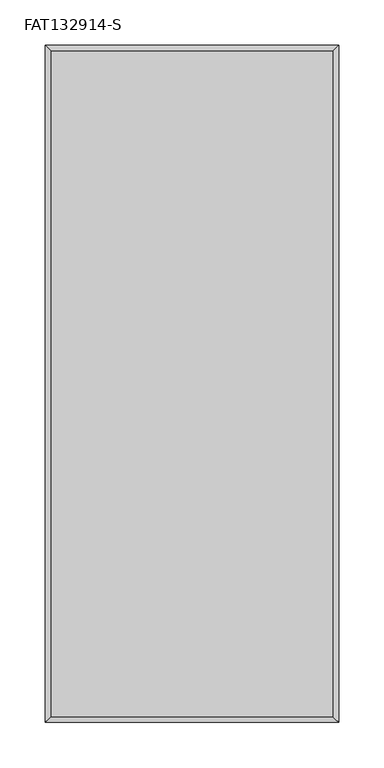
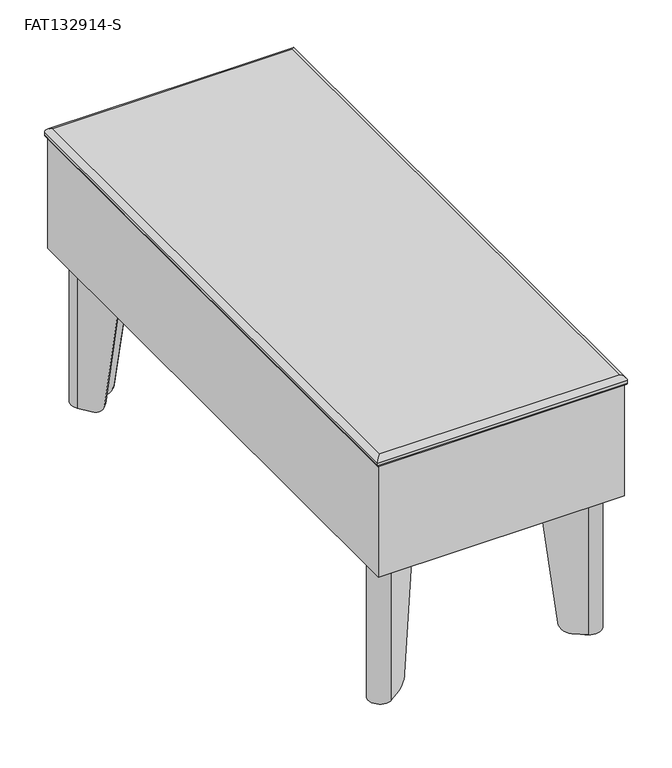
"""IFC4 building model written with IfcOpenShell, lengths in millimetres: furniture geometry, Stance_HC-Flora-Table_Straight : FAT132914-S."""

import ifcopenshell
import ifcopenshell.guid

model = None  # the IFC model being written
_history = None  # IfcOwnerHistory: only IFC2X3 demands one
_inside = {}  # id of a spatial element -> (the spatial element, [elements in it])
_under = {}  # id of a project, library or spatial element -> (it, [spatial elements below it])
_declared = {}  # id of a project -> (the project, [libraries it declares])
_typed = {}  # id of a type object -> (the type object, [elements of that type])
_made_of = {}  # id of a material, layer set ... -> (it, [elements and type objects made of it])


def new_model(schema):
    """Start an empty IFC model of exactly this schema.

    Asked for "IFC4X3", IfcOpenShell would pick the latest addendum, in which some entities
    have other attributes; the version numbers below select the first issue.
    IFC2X3 requires an IfcOwnerHistory on every rooted entity: one is made here for all.
    """
    global model, _history
    if schema == "IFC4X3":
        model = ifcopenshell.file(schema_version=(4, 3, 0, 0))
    else:
        model = ifcopenshell.file(schema=schema)
    _inside.clear()
    _under.clear()
    _declared.clear()
    _typed.clear()
    _made_of.clear()
    _history = None
    if model.schema == "IFC2X3":
        org = make("IfcOrganization", Name="unknown")
        user = make(
            "IfcPersonAndOrganization",
            ThePerson=make("IfcPerson", FamilyName="unknown"),
            TheOrganization=org,
        )
        app = make(
            "IfcApplication",
            ApplicationDeveloper=org,
            Version="unknown",
            ApplicationFullName="unknown",
            ApplicationIdentifier="unknown",
        )
        _history = make(
            "IfcOwnerHistory",
            OwningUser=user,
            OwningApplication=app,
            ChangeAction="ADDED",
            CreationDate=0,
        )
    return model


def make(cls, **values):
    """One entity of the class cls with the attributes given. An attribute that is None is left unset."""
    return model.create_entity(
        cls, **{name: value for name, value in values.items() if value is not None}
    )


def rooted(cls, **values):
    """An entity with a GlobalId (a new one), such as an element, a storey or a relation."""
    return make(cls, GlobalId=ifcopenshell.guid.new(), OwnerHistory=_history, **values)


def si_unit(unit_type, name, prefix=None):
    """IfcSIUnit, for example si_unit("LENGTHUNIT", "METRE", prefix="MILLI")."""
    return make("IfcSIUnit", UnitType=unit_type, Prefix=prefix, Name=name)


def assignment(units):
    """IfcUnitAssignment: the units of a project."""
    return None if units is None else make("IfcUnitAssignment", Units=units)


def point(xyz):
    """IfcCartesianPoint."""
    return None if xyz is None else make("IfcCartesianPoint", Coordinates=xyz)


def direction(xyz):
    """IfcDirection."""
    return None if xyz is None else make("IfcDirection", DirectionRatios=xyz)


def frame(location, z_axis=None, x_axis=None):
    """IfcAxis2Placement3D, a coordinate frame: its origin and axes. An axis left out is left unset."""
    return make(
        "IfcAxis2Placement3D",
        Location=point(location),
        Axis=direction(z_axis),
        RefDirection=direction(x_axis),
    )


def frame_2d(location, x_axis=None):
    """IfcAxis2Placement2D, a coordinate frame in the plane: its origin and x axis."""
    return make(
        "IfcAxis2Placement2D", Location=point(location), RefDirection=direction(x_axis)
    )


def origin():
    """The frame at (0, 0, 0) with its axes left unset."""
    return frame((0.0, 0.0, 0.0))


def origin_with_axes():
    """The frame at (0, 0, 0) with the z axis (0, 0, 1) and the x axis (1, 0, 0) written out."""
    return frame((0.0, 0.0, 0.0), z_axis=(0.0, 0.0, 1.0), x_axis=(1.0, 0.0, 0.0))


def place(relative_to, where):
    """IfcLocalPlacement: puts the frame where relative to a parent placement (None: the world)."""
    return make(
        "IfcLocalPlacement", PlacementRelTo=relative_to, RelativePlacement=where
    )


def context(
    kind, dimensions, precision=None, world=None, true_north=None, identifier=None
):
    """IfcGeometricRepresentationContext, for example the 3D "Model" context."""
    return make(
        "IfcGeometricRepresentationContext",
        ContextIdentifier=identifier,
        ContextType=kind,
        CoordinateSpaceDimension=dimensions,
        Precision=precision,
        WorldCoordinateSystem=world,
        TrueNorth=true_north,
    )


def project(units=None, contexts=None):
    """IfcProject with its units and contexts."""
    return rooted(
        "IfcProject",
        Name="project",
        RepresentationContexts=contexts,
        UnitsInContext=assignment(units),
    )


def spatial(cls, under=None, at=None, **own):
    """A site, building, storey or space (cls), placed at a placement, below another one or the project."""
    s = rooted(cls, ObjectPlacement=at, **own)
    if under is not None:
        _under.setdefault(under.id(), (under, []))[1].append(s)
    return s


def polyline(points):
    """IfcPolyline through the points."""
    return make("IfcPolyline", Points=[point(p) for p in points])


def circle_curve(where, radius):
    """IfcCircle in the frame where."""
    return make("IfcCircle", Position=where, Radius=radius)


def ellipse_curve(where, semi_axis1, semi_axis2):
    """IfcEllipse in the frame where."""
    return make(
        "IfcEllipse", Position=where, SemiAxis1=semi_axis1, SemiAxis2=semi_axis2
    )


def trimmed(basis, trim1, trim2, sense, master):
    """IfcTrimmedCurve: the piece of a basis curve between two trims."""
    return make(
        "IfcTrimmedCurve",
        BasisCurve=basis,
        Trim1=trim1,
        Trim2=trim2,
        SenseAgreement=sense,
        MasterRepresentation=master,
    )


def segment(curve, same_sense, transition):
    """IfcCompositeCurveSegment."""
    return make(
        "IfcCompositeCurveSegment",
        Transition=transition,
        SameSense=same_sense,
        ParentCurve=curve,
    )


def composite_curve(segments, self_intersect=None):
    """IfcCompositeCurve: segments joined end to end."""
    return make("IfcCompositeCurve", Segments=segments, SelfIntersect=self_intersect)


def outline(outer, holes=None, kind="AREA"):
    """IfcArbitraryClosedProfileDef: a profile drawn as a closed curve; with holes, ...WithVoids."""
    if holes is None:
        return make("IfcArbitraryClosedProfileDef", ProfileType=kind, OuterCurve=outer)
    return make(
        "IfcArbitraryProfileDefWithVoids",
        ProfileType=kind,
        OuterCurve=outer,
        InnerCurves=holes,
    )


def extrude(swept, where, along, depth):
    """IfcExtrudedAreaSolid: the profile swept, set in the frame where, extruded along a direction by depth."""
    return make(
        "IfcExtrudedAreaSolid",
        SweptArea=swept,
        Position=where,
        ExtrudedDirection=direction(along),
        Depth=depth,
    )


def shape(context_of_items, identifier, shape_type, items):
    """IfcShapeRepresentation: the items that make up one representation, for example the "Body"."""
    return make(
        "IfcShapeRepresentation",
        ContextOfItems=context_of_items,
        RepresentationIdentifier=identifier,
        RepresentationType=shape_type,
        Items=items,
    )


def source(mapping_origin, context_of_items, identifier, shape_type, items):
    """IfcRepresentationMap: a shape defined once, which mapped items show again and again."""
    return make(
        "IfcRepresentationMap",
        MappingOrigin=mapping_origin,
        MappedRepresentation=shape(context_of_items, identifier, shape_type, items),
    )


def transform(
    local_origin,
    x_axis=None,
    y_axis=None,
    z_axis=None,
    scale=None,
    scale2=None,
    scale3=None,
    uniform=True,
):
    """IfcCartesianTransformationOperator3D, or its non-uniform kind. x_axis, y_axis, z_axis: its Axis1, 2, 3."""
    if uniform:
        return make(
            "IfcCartesianTransformationOperator3D",
            Axis1=direction(x_axis),
            Axis2=direction(y_axis),
            LocalOrigin=point(local_origin),
            Scale=scale,
            Axis3=direction(z_axis),
        )
    return make(
        "IfcCartesianTransformationOperator3DnonUniform",
        Axis1=direction(x_axis),
        Axis2=direction(y_axis),
        LocalOrigin=point(local_origin),
        Scale=scale,
        Axis3=direction(z_axis),
        Scale2=scale2,
        Scale3=scale3,
    )


def mapped(mapping_source, mapping_target):
    """IfcMappedItem: shows the shape of a source again, moved by a transform."""
    return make(
        "IfcMappedItem", MappingSource=mapping_source, MappingTarget=mapping_target
    )


def made_of(thing, what):
    """Note that an element or type object is made of a material, layer set ...; save() writes the relation."""
    if what is not None:
        _made_of.setdefault(what.id(), (what, []))[1].append(thing)
    return thing


def element(
    cls,
    number,
    at=None,
    inside=None,
    cuts=None,
    type_object=None,
    material=None,
    context=None,
    identifier="Body",
    shape_type=None,
    held_by="IfcProductDefinitionShape",
    body=None,
    shapes=None,
    **own,
):
    """One element of the class cls, such as IfcWall. Its Tag is "e" and its number.

    at: its placement. inside: the storey or other place that contains it. cuts: it is an
    opening in that element (IfcRelVoidsElement). A single representation is given by context,
    identifier, shape_type and body (its items); several are given by shapes. held_by: the class
    of the entity that holds the representations. save() writes the other relations.
    """
    e = rooted(cls, Tag="e%d" % number, ObjectPlacement=at, **own)
    if body is not None:
        shapes = [shape(context, identifier, shape_type, body)]
    if shapes is not None:
        e.Representation = make(held_by, Representations=shapes)
    if inside is not None:
        _inside.setdefault(inside.id(), (inside, []))[1].append(e)
    if cuts is not None:
        rooted(
            "IfcRelVoidsElement", RelatingBuildingElement=cuts, RelatedOpeningElement=e
        )
    if type_object is not None:
        _typed.setdefault(type_object.id(), (type_object, []))[1].append(e)
    return made_of(e, material)


def aggregate(whole, parts):
    """IfcRelAggregates: a whole, such as a stair, and the parts it consists of."""
    return rooted("IfcRelAggregates", RelatingObject=whole, RelatedObjects=parts)


def save(model, path):
    """Write the relations noted so far, then the file.

    IfcRelAggregates (storeys below a building ...), IfcRelContainedInSpatialStructure (elements
    in a storey), IfcRelDefinesByType, IfcRelAssociatesMaterial and IfcRelDeclares: one each for
    every whole, place, type object, material and project.
    """
    for whole, parts in _under.values():
        aggregate(whole, parts)
    for where, things in _inside.values():
        rooted(
            "IfcRelContainedInSpatialStructure",
            RelatedElements=things,
            RelatingStructure=where,
        )
    for kind, things in _typed.values():
        rooted("IfcRelDefinesByType", RelatedObjects=things, RelatingType=kind)
    for what, things in _made_of.values():
        rooted("IfcRelAssociatesMaterial", RelatedObjects=things, RelatingMaterial=what)
    for by, libraries in _declared.values():
        rooted("IfcRelDeclares", RelatingContext=by, RelatedDefinitions=libraries)
    model.write(path)


def plane_surface(at):
    """IfcPlane: the flat surface through the origin of the frame at, square to its z axis."""
    return make("IfcPlane", Position=at)


def cylinder_surface(at, radius):
    """IfcCylindricalSurface: all points at the distance radius from the z axis of the frame at."""
    return make("IfcCylindricalSurface", Position=at, Radius=radius)


def revolved_surface(curve, axis_point, axis_direction):
    """IfcSurfaceOfRevolution: the curve turned about the line through axis_point along axis_direction."""
    return make(
        "IfcSurfaceOfRevolution",
        SweptCurve=make("IfcArbitraryOpenProfileDef", ProfileType="CURVE", Curve=curve),
        AxisPosition=make("IfcAxis1Placement", Location=point(axis_point), Axis=direction(axis_direction)),
    )


def advanced_brep(points, edges, surfaces, faces):
    """IfcAdvancedBrep: a solid bounded by faces that lie on surfaces and meet in shared edges.

    An edge is (start, end): straight between two places in points (the first is 0);
    or (start, end, curve); or (start, end, curve, False) where it runs against its curve.
    A face is (place in surfaces, loops), or (place, loops, False) where it looks against
    its surface's normal. A loop lists edges by number (the first is 1), with a minus sign
    where the edge is run from its end to its start. The first loop is the outer one.
    """
    corners = [point(p) for p in points]
    vertices = [make("IfcVertexPoint", VertexGeometry=c) for c in corners]
    made = []
    for start, end, *more in edges:
        made.append(
            make(
                "IfcEdgeCurve",
                EdgeStart=vertices[start],
                EdgeEnd=vertices[end],
                EdgeGeometry=more[0] if more else make("IfcPolyline", Points=[corners[start], corners[end]]),
                SameSense=more[1] if len(more) > 1 else True,
            )
        )
    hull = []
    for where, loops, *sense in faces:
        bounds = []
        for j, loop in enumerate(loops):
            ring = [make("IfcOrientedEdge", EdgeElement=made[abs(k) - 1], Orientation=k > 0) for k in loop]
            bounds.append(
                make(
                    "IfcFaceOuterBound" if j == 0 else "IfcFaceBound",
                    Bound=make("IfcEdgeLoop", EdgeList=ring),
                    Orientation=True,
                )
            )
        hull.append(make("IfcAdvancedFace", Bounds=bounds, FaceSurface=surfaces[where], SameSense=sense[0] if sense else True))
    return make("IfcAdvancedBrep", Outer=make("IfcClosedShell", CfsFaces=hull))


def fat132914_s_f89065ec(model_context):
    return source(origin(), model_context, "Body", "SolidModel", [
        advanced_brep(
        [(274.3401042, -102.8613619, 193.6877233), (306.2642107, -57.26919, 193.6877233), (285.6391871, -36.6441664, 193.6877233), (240.0470178, -68.568271, 193.6877233), (241.8906556, -71.2012484, 193.6877233), (287.4828248, -39.2771437, 193.6877233), (303.6312333, -55.4255523, 193.6877233), (271.7071268, -101.0177242, 193.6877233), (274.3401042, -102.8613619, 189.1419595), (303.6312333, -55.4255523, 3.1876992), (293.5105238, -69.8793673, 3.1876992), (284.3334277, -82.9855678, 17.1280233), (287.4828248, -39.2771437, 3.1876992), (259.9228092, -58.5749494, 17.1280233), (273.0290098, -49.3978533, 3.1876992), (240.0470178, -68.568271, 189.1419334), (285.6391871, -36.6441664, 3.1876992), (270.7211121, -47.0899556, 3.1876992), (257.6149115, -56.2670517, 17.1280233), (306.2642107, -57.26919, 3.1876992), (286.6413254, -85.2934656, 17.1280233), (295.8184215, -72.187265, 3.1876992)],
        [
            (0, 1),
            (1, 2, circle_curve(frame((294.1333442, -48.7750329, 193.6877233), z_axis=(0.0, 0.0, 1.0), x_axis=(-1.0, 0.0, 0.0)), 14.8090724)),
            (2, 3),
            (3, 4),
            (4, 5),
            (5, 6, circle_curve(frame((294.1333442, -48.7750329, 193.6877233), z_axis=(0.0, 0.0, -1.0), x_axis=(-1.0, 0.0, 0.0)), 11.5947965)),
            (6, 7),
            (7, 0),
            (7, 8),
            (8, 0),
            (6, 9),
            (9, 10),
            (10, 11, ellipse_curve(frame((293.5105238, -69.8793673, 19.0626992), z_axis=(-0.8191509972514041, 0.5735779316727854, 0.0), x_axis=(-0.5735779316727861, -0.8191509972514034, 0.0)), 16.1198923, 15.875)),
            (11, 7),
            (5, 12),
            (12, 9, circle_curve(frame((294.1333442, -48.7750329, 3.1876992), z_axis=(0.0, 0.0, -1.0), x_axis=(-1.0, 0.0, 0.0)), 11.5947965)),
            (4, 13),
            (13, 14, ellipse_curve(frame((273.0290098, -49.3978533, 19.0626992), z_axis=(0.5735779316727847, -0.8191509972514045, 0.0), x_axis=(0.8191509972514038, 0.5735779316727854, 0.0)), 16.1198923, 15.875)),
            (14, 12),
            (3, 15),
            (15, 4),
            (2, 16),
            (16, 17),
            (17, 18, ellipse_curve(frame((270.7211121, -47.0899556, 19.0626992), z_axis=(-0.5735779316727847, 0.8191509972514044, 0.0), x_axis=(0.8191509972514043, 0.573577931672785, 0.0)), 16.1198923, 15.875)),
            (18, 15),
            (1, 19),
            (19, 16, circle_curve(frame((294.1333442, -48.7750329, 3.1876992), z_axis=(0.0, 0.0, 1.0), x_axis=(-1.0, 0.0, 0.0)), 14.8090724)),
            (8, 20),
            (20, 21, ellipse_curve(frame((295.8184215, -72.187265, 19.0626992), z_axis=(0.8191509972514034, -0.5735779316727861, 0.0), x_axis=(-0.5735779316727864, -0.8191509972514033, 0.0)), 16.1198923, 15.875)),
            (21, 19),
            (18, 13),
            (11, 20),
            (21, 10),
            (14, 17),
        ],
        [
            plane_surface(frame((271.7071268, -101.0177242, 193.6877233), z_axis=(0.0, 0.0, 1.0000000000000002), x_axis=(-0.8191509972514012, 0.5735779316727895, 0.0))),
            plane_surface(frame((274.3401042, -102.8613619, 193.6877233), z_axis=(-0.5735779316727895, -0.8191509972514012, 0.0), x_axis=(0.0, 0.0, -1.0))),
            plane_surface(frame((271.7071268, -101.0177242, 193.6877233), z_axis=(-0.8191509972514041, 0.5735779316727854, 0.0), x_axis=(0.0, 0.0, -1.0))),
            revolved_surface(polyline([(282.53854770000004, -48.7750329, 3.1876992), (282.53854770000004, -48.7750329, 193.6877233)]), (294.1333442, -48.7750329, 0.0), (0.0, 0.0, -1.0)),
            plane_surface(frame((287.4828248, -39.2771437, 193.6877233), z_axis=(0.5735779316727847, -0.8191509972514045, 0.0), x_axis=(0.0, 0.0, -1.0))),
            plane_surface(frame((241.8906556, -71.2012484, 193.6877233), z_axis=(-0.8191509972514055, -0.5735779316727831, 0.0), x_axis=(0.0, 0.0, -1.0))),
            plane_surface(frame((240.0470178, -68.568271, 193.6877233), z_axis=(-0.5735779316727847, 0.8191509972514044, 0.0), x_axis=(0.0, 0.0, -1.0))),
            cylinder_surface(frame((294.1333442, -48.7750329, 0.0), z_axis=(0.0, 0.0, 1.0), x_axis=(-1.0, 0.0, 0.0)), 14.8090724),
            plane_surface(frame((306.2642107, -57.26919, 193.6877233), z_axis=(0.8191509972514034, -0.5735779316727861, 0.0), x_axis=(0.0, 0.0, -1.0))),
            plane_surface(frame((251.7311084, -50.3832485, 17.1280233), z_axis=(-0.7018361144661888, -0.7018361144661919, -0.12186934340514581), x_axis=(0.7071067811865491, -0.707106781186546, 0.0))),
            plane_surface(frame((284.2214639, -17.8928931, 3.1876992), z_axis=(0.0, 0.0, -1.0), x_axis=(0.707106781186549, -0.707106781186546, 0.0))),
            cylinder_surface(frame((303.6583998, -80.0272433, 19.0626992), z_axis=(0.7071067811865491, -0.707106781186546, 0.0), x_axis=(-0.707106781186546, -0.7071067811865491, 0.0)), 15.875),
        ],
        [
            (0, [[1, 2, 3, 4, 5, 6, 7, 8]]),
            (1, [[9, 10, -8]]),
            (2, [[11, 12, 13, 14, -7]]),
            (3, [[15, 16, -11, -6]]),
            (4, [[17, 18, 19, -15, -5]]),
            (5, [[20, 21, -4]]),
            (6, [[22, 23, 24, 25, -20, -3]]),
            (7, [[26, 27, -22, -2]]),
            (8, [[-10, 28, 29, 30, -26, -1]]),
            (9, [[-17, -21, -25, 31]]),
            (9, [[-28, -9, -14, 32]]),
            (10, [[-23, -27, -30, 33, -12, -16, -19, 34]]),
            (11, [[-13, -33, -29, -32]]),
            (11, [[-24, -34, -18, -31]]),
        ],
    ),
        extrude(outline(composite_curve([segment(trimmed(circle_curve(frame_2d((292.1, -50.8)), 11.1125), [point((303.2125, -50.8))], [point((280.9875, -50.8))], False, "CARTESIAN"), True, "CONTINUOUS"), segment(trimmed(circle_curve(frame_2d((292.1, -50.8)), 11.1125), [point((280.9875, -50.8))], [point((303.2125, -50.8))], False, "CARTESIAN"), True, "CONTINUOUS")], self_intersect=False)), origin_with_axes(), (0.0, 0.0, 1.0), 3.175),
        extrude(outline(composite_curve([segment(trimmed(circle_curve(frame_2d((295.4524523, -47.4559239)), 15.8749964), [point((294.3450687, -31.6195983))], [point((311.288778, -48.5633073))], False, "CARTESIAN"), True, "CONTINUOUS"), segment(polyline([(311.288778, -48.5633073), (304.2918062, -148.6247029), (274.4414324, -178.4750713), (190.4983323, -152.4100523), (164.4332978, -68.4669439), (194.2836699, -38.6165718), (294.3450687, -31.6195983)]), True, "CONTINUOUS")], self_intersect=False)), frame((0.0, 0.0, 193.6877233), z_axis=(0.0, 0.0, 1.0), x_axis=(1.0, 0.0, 0.0)), (0.0, 0.0, 1.0), 4.7751809),
        advanced_brep(
        [(274.3401042, -659.1386381, 193.6877233), (271.7071268, -660.9822758, 193.6877233), (303.6312333, -706.5744477, 193.6877233), (287.4828248, -722.7228563, 193.6877233), (241.8906556, -690.7987516, 193.6877233), (240.0470178, -693.431729, 193.6877233), (285.6391871, -725.3558336, 193.6877233), (306.2642107, -704.73081, 193.6877233), (274.3401042, -659.1386381, 189.1419595), (284.3334277, -679.0144322, 17.1280233), (293.5105238, -692.1206327, 3.1876992), (303.6312333, -706.5744477, 3.1876992), (287.4828248, -722.7228563, 3.1876992), (273.0290098, -712.6021467, 3.1876992), (259.9228092, -703.4250506, 17.1280233), (240.0470178, -693.431729, 189.1419334), (257.6149115, -705.7329483, 17.1280233), (270.7211121, -714.9100444, 3.1876992), (285.6391871, -725.3558336, 3.1876992), (306.2642107, -704.73081, 3.1876992), (295.8184215, -689.812735, 3.1876992), (286.6413254, -676.7065344, 17.1280233)],
        [
            (0, 1),
            (1, 2),
            (2, 3, circle_curve(frame((294.1333442, -713.2249671, 193.6877233), z_axis=(0.0, 0.0, -1.0), x_axis=(-1.0, 0.0, 0.0)), 11.5947965)),
            (3, 4),
            (4, 5),
            (5, 6),
            (6, 7, circle_curve(frame((294.1333442, -713.2249671, 193.6877233), z_axis=(0.0, 0.0, 1.0), x_axis=(-1.0, 0.0, 0.0)), 14.8090724)),
            (7, 0),
            (0, 8),
            (8, 1),
            (1, 9),
            (9, 10, ellipse_curve(frame((293.5105238, -692.1206327, 19.0626992), z_axis=(-0.8191509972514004, -0.5735779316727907, 0.0), x_axis=(-0.5735779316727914, 0.8191509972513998, 0.0)), 16.1198923, 15.875)),
            (10, 11),
            (11, 2),
            (11, 12, circle_curve(frame((294.1333442, -713.2249671, 3.1876992), z_axis=(0.0, 0.0, -1.0), x_axis=(-1.0, 0.0, 0.0)), 11.5947965)),
            (12, 3),
            (12, 13),
            (13, 14, ellipse_curve(frame((273.0290098, -712.6021467, 19.0626992), z_axis=(0.5735779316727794, 0.8191509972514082, 0.0), x_axis=(0.8191509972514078, -0.5735779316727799, 0.0)), 16.1198923, 15.875)),
            (14, 4),
            (4, 15),
            (15, 5),
            (15, 16),
            (16, 17, ellipse_curve(frame((270.7211121, -714.9100444, 19.0626992), z_axis=(-0.5735779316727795, -0.8191509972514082, 0.0), x_axis=(0.8191509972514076, -0.5735779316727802, 0.0)), 16.1198923, 15.875)),
            (17, 18),
            (18, 6),
            (18, 19, circle_curve(frame((294.1333442, -713.2249671, 3.1876992), z_axis=(0.0, 0.0, 1.0), x_axis=(-1.0, 0.0, 0.0)), 14.8090724)),
            (19, 7),
            (19, 20),
            (20, 21, ellipse_curve(frame((295.8184215, -689.812735, 19.0626992), z_axis=(0.8191509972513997, 0.5735779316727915, 0.0), x_axis=(-0.573577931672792, 0.8191509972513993, 0.0)), 16.1198923, 15.875)),
            (21, 8),
            (14, 16),
            (21, 9),
            (17, 13),
            (10, 20),
        ],
        [
            plane_surface(frame((271.7071268, -660.9822758, 193.6877233), z_axis=(0.0, 0.0, 0.9999999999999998), x_axis=(-0.8191509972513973, -0.5735779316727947, 0.0))),
            plane_surface(frame((274.3401042, -659.1386381, 193.6877233), z_axis=(-0.5735779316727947, 0.8191509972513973, 0.0), x_axis=(0.0, 0.0, -1.0))),
            plane_surface(frame((271.7071268, -660.9822758, 193.6877233), z_axis=(-0.8191509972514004, -0.5735779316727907, 0.0), x_axis=(0.0, 0.0, -1.0))),
            revolved_surface(polyline([(282.53854770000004, -713.2249671, 3.1876992), (282.53854770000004, -713.2249671, 193.6877233)]), (294.1333442, -713.2249671, 0.0), (0.0, 0.0, -1.0)),
            plane_surface(frame((287.4828248, -722.7228563, 193.6877233), z_axis=(0.5735779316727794, 0.8191509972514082, 0.0), x_axis=(0.0, 0.0, -1.0))),
            plane_surface(frame((241.8906556, -690.7987516, 193.6877233), z_axis=(-0.8191509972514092, 0.5735779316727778, 0.0), x_axis=(0.0, 0.0, -1.0))),
            plane_surface(frame((240.0470178, -693.431729, 193.6877233), z_axis=(-0.5735779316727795, -0.8191509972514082, 0.0), x_axis=(0.0, 0.0, -1.0))),
            cylinder_surface(frame((294.1333442, -713.2249671, 0.0), z_axis=(0.0, 0.0, 1.0), x_axis=(-1.0, 0.0, 0.0)), 14.8090724),
            plane_surface(frame((306.2642107, -704.73081, 193.6877233), z_axis=(0.8191509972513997, 0.5735779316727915, 0.0), x_axis=(0.0, 0.0, -1.0))),
            plane_surface(frame((251.7311084, -711.6167515, 17.1280233), z_axis=(-0.7018361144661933, 0.7018361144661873, -0.12186934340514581), x_axis=(0.7071067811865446, 0.7071067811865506, 0.0))),
            plane_surface(frame((284.2214639, -744.1071069, 3.1876992), z_axis=(0.0, 0.0, -1.0), x_axis=(0.7071067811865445, 0.7071067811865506, 0.0))),
            cylinder_surface(frame((303.6583998, -681.9727567, 19.0626992), z_axis=(0.7071067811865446, 0.7071067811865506, 0.0), x_axis=(-0.7071067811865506, 0.7071067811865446, 0.0)), 15.875),
        ],
        [
            (0, [[1, 2, 3, 4, 5, 6, 7, 8]]),
            (1, [[-1, 9, 10]]),
            (2, [[-2, 11, 12, 13, 14]]),
            (3, [[-3, -14, 15, 16]]),
            (4, [[-4, -16, 17, 18, 19]]),
            (5, [[-5, 20, 21]]),
            (6, [[-6, -21, 22, 23, 24, 25]]),
            (7, [[-7, -25, 26, 27]]),
            (8, [[-8, -27, 28, 29, 30, -9]]),
            (9, [[31, -22, -20, -19]]),
            (9, [[32, -11, -10, -30]]),
            (10, [[33, -17, -15, -13, 34, -28, -26, -24]]),
            (11, [[-31, -18, -33, -23]]),
            (11, [[-32, -29, -34, -12]]),
        ],
    ),
        extrude(outline(composite_curve([segment(trimmed(circle_curve(frame_2d((292.1, -711.2)), 11.1125), [point((303.2125, -711.2))], [point((280.9875, -711.2))], False, "CARTESIAN"), True, "CONTINUOUS"), segment(trimmed(circle_curve(frame_2d((292.1, -711.2)), 11.1125), [point((280.9875, -711.2))], [point((303.2125, -711.2))], False, "CARTESIAN"), True, "CONTINUOUS")], self_intersect=False)), origin_with_axes(), (0.0, 0.0, 1.0), 3.175),
        extrude(outline(composite_curve([segment(polyline([(294.3450687, -730.3804017), (194.2836699, -723.3834282), (164.4332978, -693.5330561), (190.4983323, -609.5899477), (274.4414324, -583.5249287), (304.2918062, -613.3752971), (311.288778, -713.4366927)]), True, "CONTINUOUS"), segment(trimmed(circle_curve(frame_2d((295.4524523, -714.5440761)), 15.8749964), [point((311.288778, -713.4366927))], [point((294.3450687, -730.3804017))], False, "CARTESIAN"), True, "CONTINUOUS")], self_intersect=False)), frame((0.0, 0.0, 193.6877233), z_axis=(0.0, 0.0, 1.0), x_axis=(1.0, 0.0, 0.0)), (0.0, 0.0, 1.0), 4.7751809),
        advanced_brep(
        [(43.1598958, -659.1386381, 193.6877233), (11.2357893, -704.73081, 193.6877233), (31.8608129, -725.3558336, 193.6877233), (77.4529822, -693.431729, 193.6877233), (75.6093444, -690.7987516, 193.6877233), (30.0171752, -722.7228563, 193.6877233), (13.8687667, -706.5744477, 193.6877233), (45.7928732, -660.9822758, 193.6877233), (43.1598958, -659.1386381, 189.1419595), (13.8687667, -706.5744477, 3.1876992), (23.9894762, -692.1206327, 3.1876992), (33.1665723, -679.0144322, 17.1280233), (30.0171752, -722.7228563, 3.1876992), (57.5771908, -703.4250506, 17.1280233), (44.4709902, -712.6021467, 3.1876992), (77.4529822, -693.431729, 189.1419334), (31.8608129, -725.3558336, 3.1876992), (46.7788879, -714.9100444, 3.1876992), (59.8850885, -705.7329483, 17.1280233), (11.2357893, -704.73081, 3.1876992), (30.8586746, -676.7065344, 17.1280233), (21.6815785, -689.812735, 3.1876992)],
        [
            (0, 1),
            (1, 2, circle_curve(frame((23.3666558, -713.2249671, 193.6877233), z_axis=(0.0, 0.0, 1.0), x_axis=(1.0, 0.0, 0.0)), 14.8090724)),
            (2, 3),
            (3, 4),
            (4, 5),
            (5, 6, circle_curve(frame((23.3666558, -713.2249671, 193.6877233), z_axis=(0.0, 0.0, -1.0), x_axis=(1.0, 0.0, 0.0)), 11.5947965)),
            (6, 7),
            (7, 0),
            (7, 8),
            (8, 0),
            (6, 9),
            (9, 10),
            (10, 11, ellipse_curve(frame((23.9894762, -692.1206327, 19.0626992), z_axis=(0.8191509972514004, -0.5735779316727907, 0.0), x_axis=(0.5735779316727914, 0.8191509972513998, 0.0)), 16.1198923, 15.875)),
            (11, 7),
            (5, 12),
            (12, 9, circle_curve(frame((23.3666558, -713.2249671, 3.1876992), z_axis=(0.0, 0.0, -1.0), x_axis=(1.0, 0.0, 0.0)), 11.5947965)),
            (4, 13),
            (13, 14, ellipse_curve(frame((44.4709902, -712.6021467, 19.0626992), z_axis=(-0.5735779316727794, 0.8191509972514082, 0.0), x_axis=(-0.8191509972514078, -0.5735779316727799, 0.0)), 16.1198923, 15.875)),
            (14, 12),
            (3, 15),
            (15, 4),
            (2, 16),
            (16, 17),
            (17, 18, ellipse_curve(frame((46.7788879, -714.9100444, 19.0626992), z_axis=(0.5735779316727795, -0.8191509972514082, 0.0), x_axis=(-0.8191509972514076, -0.5735779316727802, 0.0)), 16.1198923, 15.875)),
            (18, 15),
            (1, 19),
            (19, 16, circle_curve(frame((23.3666558, -713.2249671, 3.1876992), z_axis=(0.0, 0.0, 1.0), x_axis=(1.0, 0.0, 0.0)), 14.8090724)),
            (8, 20),
            (20, 21, ellipse_curve(frame((21.6815785, -689.812735, 19.0626992), z_axis=(-0.8191509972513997, 0.5735779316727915, 0.0), x_axis=(0.573577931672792, 0.8191509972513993, 0.0)), 16.1198923, 15.875)),
            (21, 19),
            (18, 13),
            (11, 20),
            (21, 10),
            (14, 17),
        ],
        [
            plane_surface(frame((45.7928732, -660.9822758, 193.6877233), z_axis=(0.0, 0.0, 0.9999999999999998), x_axis=(0.8191509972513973, -0.5735779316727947, 0.0))),
            plane_surface(frame((43.1598958, -659.1386381, 193.6877233), z_axis=(0.5735779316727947, 0.8191509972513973, 0.0), x_axis=(0.0, 0.0, -1.0))),
            plane_surface(frame((45.7928732, -660.9822758, 193.6877233), z_axis=(0.8191509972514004, -0.5735779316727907, 0.0), x_axis=(0.0, 0.0, -1.0))),
            revolved_surface(polyline([(34.9614523, -713.2249671, 3.1876992), (34.9614523, -713.2249671, 193.6877233)]), (23.3666558, -713.2249671, 0.0), (0.0, 0.0, -1.0)),
            plane_surface(frame((30.0171752, -722.7228563, 193.6877233), z_axis=(-0.5735779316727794, 0.8191509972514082, 0.0), x_axis=(0.0, 0.0, -1.0))),
            plane_surface(frame((75.6093444, -690.7987516, 193.6877233), z_axis=(0.8191509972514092, 0.5735779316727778, 0.0), x_axis=(0.0, 0.0, -1.0))),
            plane_surface(frame((77.4529822, -693.431729, 193.6877233), z_axis=(0.5735779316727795, -0.8191509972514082, 0.0), x_axis=(0.0, 0.0, -1.0))),
            cylinder_surface(frame((23.3666558, -713.2249671, 0.0), z_axis=(0.0, 0.0, 1.0), x_axis=(1.0, 0.0, 0.0)), 14.8090724),
            plane_surface(frame((11.2357893, -704.73081, 193.6877233), z_axis=(-0.8191509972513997, 0.5735779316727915, 0.0), x_axis=(0.0, 0.0, -1.0))),
            plane_surface(frame((65.7688916, -711.6167515, 17.1280233), z_axis=(0.7018361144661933, 0.7018361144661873, -0.12186934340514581), x_axis=(-0.7071067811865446, 0.7071067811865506, 0.0))),
            plane_surface(frame((33.2785361, -744.1071069, 3.1876992), z_axis=(0.0, 0.0, -1.0), x_axis=(-0.7071067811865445, 0.7071067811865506, 0.0))),
            cylinder_surface(frame((13.8416002, -681.9727567, 19.0626992), z_axis=(-0.7071067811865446, 0.7071067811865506, 0.0), x_axis=(0.7071067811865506, 0.7071067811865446, 0.0)), 15.875),
        ],
        [
            (0, [[1, 2, 3, 4, 5, 6, 7, 8]]),
            (1, [[9, 10, -8]]),
            (2, [[11, 12, 13, 14, -7]]),
            (3, [[15, 16, -11, -6]]),
            (4, [[17, 18, 19, -15, -5]]),
            (5, [[20, 21, -4]]),
            (6, [[22, 23, 24, 25, -20, -3]]),
            (7, [[26, 27, -22, -2]]),
            (8, [[-10, 28, 29, 30, -26, -1]]),
            (9, [[-17, -21, -25, 31]]),
            (9, [[-28, -9, -14, 32]]),
            (10, [[-23, -27, -30, 33, -12, -16, -19, 34]]),
            (11, [[-13, -33, -29, -32]]),
            (11, [[-24, -34, -18, -31]]),
        ],
    ),
        extrude(outline(composite_curve([segment(trimmed(circle_curve(frame_2d((25.4, -711.2)), 11.1125), [point((14.2875, -711.2))], [point((36.5125, -711.2))], False, "CARTESIAN"), True, "CONTINUOUS"), segment(trimmed(circle_curve(frame_2d((25.4, -711.2)), 11.1125), [point((36.5125, -711.2))], [point((14.2875, -711.2))], False, "CARTESIAN"), True, "CONTINUOUS")], self_intersect=False)), origin_with_axes(), (0.0, 0.0, 1.0), 3.175),
        extrude(outline(composite_curve([segment(trimmed(circle_curve(frame_2d((22.0475477, -714.5440761)), 15.8749964), [point((23.1549313, -730.3804017))], [point((6.211222, -713.4366927))], False, "CARTESIAN"), True, "CONTINUOUS"), segment(polyline([(6.211222, -713.4366927), (13.2081938, -613.3752971), (43.0585676, -583.5249287), (127.0016677, -609.5899477), (153.0667022, -693.5330561), (123.2163301, -723.3834282), (23.1549313, -730.3804017)]), True, "CONTINUOUS")], self_intersect=False)), frame((0.0, 0.0, 193.6877233), z_axis=(0.0, 0.0, 1.0), x_axis=(1.0, 0.0, 0.0)), (0.0, 0.0, 1.0), 4.7751809),
        advanced_brep(
        [(43.1598958, -102.8613619, 193.6877233), (45.7928732, -101.0177242, 193.6877233), (13.8687667, -55.4255523, 193.6877233), (30.0171752, -39.2771437, 193.6877233), (75.6093444, -71.2012484, 193.6877233), (77.4529822, -68.568271, 193.6877233), (31.8608129, -36.6441664, 193.6877233), (11.2357893, -57.26919, 193.6877233), (43.1598958, -102.8613619, 189.1419595), (33.1665723, -82.9855678, 17.1280233), (23.9894762, -69.8793673, 3.1876992), (13.8687667, -55.4255523, 3.1876992), (30.0171752, -39.2771437, 3.1876992), (44.4709902, -49.3978533, 3.1876992), (57.5771908, -58.5749494, 17.1280233), (77.4529822, -68.568271, 189.1419334), (59.8850885, -56.2670517, 17.1280233), (46.7788879, -47.0899556, 3.1876992), (31.8608129, -36.6441664, 3.1876992), (11.2357893, -57.26919, 3.1876992), (21.6815785, -72.187265, 3.1876992), (30.8586746, -85.2934656, 17.1280233)],
        [
            (0, 1),
            (1, 2),
            (2, 3, circle_curve(frame((23.3666558, -48.7750329, 193.6877233), z_axis=(0.0, 0.0, -1.0), x_axis=(1.0, 0.0, 0.0)), 11.5947965)),
            (3, 4),
            (4, 5),
            (5, 6),
            (6, 7, circle_curve(frame((23.3666558, -48.7750329, 193.6877233), z_axis=(0.0, 0.0, 1.0), x_axis=(1.0, 0.0, 0.0)), 14.8090724)),
            (7, 0),
            (0, 8),
            (8, 1),
            (1, 9),
            (9, 10, ellipse_curve(frame((23.9894762, -69.8793673, 19.0626992), z_axis=(0.8191509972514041, 0.5735779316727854, 0.0), x_axis=(0.5735779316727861, -0.8191509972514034, 0.0)), 16.1198923, 15.875)),
            (10, 11),
            (11, 2),
            (11, 12, circle_curve(frame((23.3666558, -48.7750329, 3.1876992), z_axis=(0.0, 0.0, -1.0), x_axis=(1.0, 0.0, 0.0)), 11.5947965)),
            (12, 3),
            (12, 13),
            (13, 14, ellipse_curve(frame((44.4709902, -49.3978533, 19.0626992), z_axis=(-0.5735779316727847, -0.8191509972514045, 0.0), x_axis=(-0.8191509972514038, 0.5735779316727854, 0.0)), 16.1198923, 15.875)),
            (14, 4),
            (4, 15),
            (15, 5),
            (15, 16),
            (16, 17, ellipse_curve(frame((46.7788879, -47.0899556, 19.0626992), z_axis=(0.5735779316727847, 0.8191509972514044, 0.0), x_axis=(-0.8191509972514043, 0.573577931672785, 0.0)), 16.1198923, 15.875)),
            (17, 18),
            (18, 6),
            (18, 19, circle_curve(frame((23.3666558, -48.7750329, 3.1876992), z_axis=(0.0, 0.0, 1.0), x_axis=(1.0, 0.0, 0.0)), 14.8090724)),
            (19, 7),
            (19, 20),
            (20, 21, ellipse_curve(frame((21.6815785, -72.187265, 19.0626992), z_axis=(-0.8191509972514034, -0.5735779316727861, 0.0), x_axis=(0.5735779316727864, -0.8191509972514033, 0.0)), 16.1198923, 15.875)),
            (21, 8),
            (14, 16),
            (21, 9),
            (17, 13),
            (10, 20),
        ],
        [
            plane_surface(frame((45.7928732, -101.0177242, 193.6877233), z_axis=(0.0, 0.0, 1.0000000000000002), x_axis=(0.8191509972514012, 0.5735779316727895, 0.0))),
            plane_surface(frame((43.1598958, -102.8613619, 193.6877233), z_axis=(0.5735779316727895, -0.8191509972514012, 0.0), x_axis=(0.0, 0.0, -1.0))),
            plane_surface(frame((45.7928732, -101.0177242, 193.6877233), z_axis=(0.8191509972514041, 0.5735779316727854, 0.0), x_axis=(0.0, 0.0, -1.0))),
            revolved_surface(polyline([(34.9614523, -48.7750329, 3.1876992), (34.9614523, -48.7750329, 193.6877233)]), (23.3666558, -48.7750329, 0.0), (0.0, 0.0, -1.0)),
            plane_surface(frame((30.0171752, -39.2771437, 193.6877233), z_axis=(-0.5735779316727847, -0.8191509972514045, 0.0), x_axis=(0.0, 0.0, -1.0))),
            plane_surface(frame((75.6093444, -71.2012484, 193.6877233), z_axis=(0.8191509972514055, -0.5735779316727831, 0.0), x_axis=(0.0, 0.0, -1.0))),
            plane_surface(frame((77.4529822, -68.568271, 193.6877233), z_axis=(0.5735779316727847, 0.8191509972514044, 0.0), x_axis=(0.0, 0.0, -1.0))),
            cylinder_surface(frame((23.3666558, -48.7750329, 0.0), z_axis=(0.0, 0.0, 1.0), x_axis=(1.0, 0.0, 0.0)), 14.8090724),
            plane_surface(frame((11.2357893, -57.26919, 193.6877233), z_axis=(-0.8191509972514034, -0.5735779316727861, 0.0), x_axis=(0.0, 0.0, -1.0))),
            plane_surface(frame((65.7688916, -50.3832485, 17.1280233), z_axis=(0.7018361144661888, -0.7018361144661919, -0.12186934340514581), x_axis=(-0.7071067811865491, -0.707106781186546, 0.0))),
            plane_surface(frame((33.2785361, -17.8928931, 3.1876992), z_axis=(0.0, 0.0, -1.0), x_axis=(-0.707106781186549, -0.707106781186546, 0.0))),
            cylinder_surface(frame((13.8416002, -80.0272433, 19.0626992), z_axis=(-0.7071067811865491, -0.707106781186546, 0.0), x_axis=(0.707106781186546, -0.7071067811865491, 0.0)), 15.875),
        ],
        [
            (0, [[1, 2, 3, 4, 5, 6, 7, 8]]),
            (1, [[-1, 9, 10]]),
            (2, [[-2, 11, 12, 13, 14]]),
            (3, [[-3, -14, 15, 16]]),
            (4, [[-4, -16, 17, 18, 19]]),
            (5, [[-5, 20, 21]]),
            (6, [[-6, -21, 22, 23, 24, 25]]),
            (7, [[-7, -25, 26, 27]]),
            (8, [[-8, -27, 28, 29, 30, -9]]),
            (9, [[31, -22, -20, -19]]),
            (9, [[32, -11, -10, -30]]),
            (10, [[33, -17, -15, -13, 34, -28, -26, -24]]),
            (11, [[-31, -18, -33, -23]]),
            (11, [[-32, -29, -34, -12]]),
        ],
    ),
        extrude(outline(composite_curve([segment(trimmed(circle_curve(frame_2d((25.4, -50.8)), 11.1125), [point((14.2875, -50.8))], [point((36.5125, -50.8))], False, "CARTESIAN"), True, "CONTINUOUS"), segment(trimmed(circle_curve(frame_2d((25.4, -50.8)), 11.1125), [point((36.5125, -50.8))], [point((14.2875, -50.8))], False, "CARTESIAN"), True, "CONTINUOUS")], self_intersect=False)), origin_with_axes(), (0.0, 0.0, 1.0), 3.175),
        extrude(outline(composite_curve([segment(polyline([(23.1549313, -31.6195983), (123.2163301, -38.6165718), (153.0667022, -68.4669439), (127.0016677, -152.4100523), (43.0585676, -178.4750713), (13.2081938, -148.6247029), (6.211222, -48.5633073)]), True, "CONTINUOUS"), segment(trimmed(circle_curve(frame_2d((22.0475477, -47.4559239)), 15.8749964), [point((6.211222, -48.5633073))], [point((23.1549313, -31.6195983))], False, "CARTESIAN"), True, "CONTINUOUS")], self_intersect=False)), frame((0.0, 0.0, 193.6877233), z_axis=(0.0, 0.0, 1.0), x_axis=(1.0, 0.0, 0.0)), (0.0, 0.0, 1.0), 4.7751809),
        advanced_brep(
        [(313.5376045, -746.9251045, 361.2210174), (313.5376045, -15.0748955, 361.2210174), (3.9623955, -15.0748955, 361.2210174), (3.9623955, -746.9251045, 361.2210174), (318.087372, -10.525128, 349.249991), (318.087372, -751.474872, 349.249991), (-0.587372, -751.474872, 349.249991), (-0.587372, -10.525128, 349.249991), (319.8876045, -8.7248955, 354.888882), (319.8876045, -753.2751045, 354.888882), (319.8876045, -753.2751045, 350.9190376), (319.8876045, -8.7248955, 350.9190376), (-2.3876045, -753.2751045, 354.888882), (-2.3876045, -753.2751045, 350.9190376), (-2.3876045, -8.7248955, 354.888882), (-2.3876045, -8.7248955, 350.9190376)],
        [
            (0, 1),
            (1, 2),
            (2, 3),
            (3, 0),
            (4, 5),
            (5, 6),
            (6, 7),
            (7, 4),
            (8, 1, ellipse_curve(frame((313.5376045, -15.0748955, 354.8709922), z_axis=(0.7071067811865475, -0.7071067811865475, 0.0), x_axis=(0.7071067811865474, 0.7071067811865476, 0.0)), 8.9802918, 6.3500252)),
            (0, 9, ellipse_curve(frame((313.5376045, -746.9251045, 354.8709922), z_axis=(0.7071067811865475, 0.7071067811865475, 0.0), x_axis=(-0.7071067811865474, 0.7071067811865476, 0.0)), 8.9802918, 6.3500252)),
            (9, 8),
            (9, 10),
            (10, 11),
            (11, 8),
            (10, 5, ellipse_curve(frame((318.2137781, -751.6012781, 350.9190376), z_axis=(0.7071067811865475, 0.7071067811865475, 0.0), x_axis=(-0.7071067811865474, 0.7071067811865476, 0.0)), 2.3671481, 1.6738265)),
            (4, 11, ellipse_curve(frame((318.2137781, -10.3987219, 350.9190376), z_axis=(0.7071067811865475, -0.7071067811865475, 0.0), x_axis=(0.7071067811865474, 0.7071067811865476, 0.0)), 2.3671481, 1.6738265)),
            (3, 12, ellipse_curve(frame((3.9623955, -746.9251045, 354.8709922), z_axis=(0.7071067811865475, -0.7071067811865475, 0.0), x_axis=(0.7071067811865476, 0.7071067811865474, 0.0)), 8.9802918, 6.3500252)),
            (12, 9),
            (12, 13),
            (13, 10),
            (13, 6, ellipse_curve(frame((-0.7137781, -751.6012781, 350.9190376), z_axis=(0.7071067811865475, -0.7071067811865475, 0.0), x_axis=(0.7071067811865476, 0.7071067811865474, 0.0)), 2.3671481, 1.6738265)),
            (2, 14, ellipse_curve(frame((3.9623955, -15.0748955, 354.8709922), z_axis=(-0.7071067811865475, -0.7071067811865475, 0.0), x_axis=(0.7071067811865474, -0.7071067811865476, 0.0)), 8.9802918, 6.3500252)),
            (14, 12),
            (14, 15),
            (15, 13),
            (15, 7, ellipse_curve(frame((-0.7137781, -10.3987219, 350.9190376), z_axis=(-0.7071067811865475, -0.7071067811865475, 0.0), x_axis=(0.7071067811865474, -0.7071067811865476, 0.0)), 2.3671481, 1.6738265)),
            (8, 14),
            (11, 15),
        ],
        [
            plane_surface(frame((3.9623955, -15.0748955, 361.2210174), z_axis=(0.0, 0.0, 1.0), x_axis=(0.0, -1.0, 0.0))),
            plane_surface(frame((3.9623955, -15.0748955, 349.249991), z_axis=(0.0, 0.0, -1.0), x_axis=(0.0, 1.0, 0.0))),
            cylinder_surface(frame((313.5376045, -11.1125, 354.8709922), z_axis=(0.0, 1.0, 0.0), x_axis=(1.0, 0.0, 0.0)), 6.3500252),
            plane_surface(frame((319.8876045, -8.7248955, 354.888882), z_axis=(1.0, 0.0, 0.0), x_axis=(0.0, -1.0, 0.0))),
            cylinder_surface(frame((318.2137781, -11.1125, 350.9190376), z_axis=(0.0, 1.0, 0.0), x_axis=(1.0, 0.0, 0.0)), 1.6738265),
            cylinder_surface(frame((317.5, -746.9251045, 354.8709922), z_axis=(1.0, 0.0, 0.0), x_axis=(0.0, -1.0, 0.0)), 6.3500252),
            plane_surface(frame((319.8876045, -753.2751045, 354.888882), z_axis=(0.0, -1.0, 0.0), x_axis=(-1.0, 0.0, 0.0))),
            cylinder_surface(frame((317.5, -751.6012781, 350.9190376), z_axis=(1.0, 0.0, 0.0), x_axis=(0.0, -1.0, 0.0)), 1.6738265),
            cylinder_surface(frame((3.9623955, -750.8875, 354.8709922), z_axis=(0.0, -1.0, 0.0), x_axis=(-1.0, 0.0, 0.0)), 6.3500252),
            plane_surface(frame((-2.3876045, -753.2751045, 354.888882), z_axis=(-1.0, 0.0, 0.0), x_axis=(0.0, 1.0, 0.0))),
            cylinder_surface(frame((-0.7137781, -750.8875, 350.9190376), z_axis=(0.0, -1.0, 0.0), x_axis=(-1.0, 0.0, 0.0)), 1.6738265),
            cylinder_surface(frame((0.0, -15.0748955, 354.8709922), z_axis=(-1.0, 0.0, 0.0), x_axis=(0.0, 1.0, 0.0)), 6.3500252),
            plane_surface(frame((-2.3876045, -8.7248955, 354.888882), z_axis=(0.0, 1.0, 0.0), x_axis=(1.0, 0.0, 0.0))),
            cylinder_surface(frame((0.0, -10.3987219, 350.9190376), z_axis=(-1.0, 0.0, 0.0), x_axis=(0.0, 1.0, 0.0)), 1.6738265),
        ],
        [
            (0, [[1, 2, 3, 4]]),
            (1, [[5, 6, 7, 8]]),
            (2, [[9, -1, 10, 11]]),
            (3, [[-11, 12, 13, 14]]),
            (4, [[-13, 15, -5, 16]]),
            (5, [[-10, -4, 17, 18]]),
            (6, [[-12, -18, 19, 20]]),
            (7, [[-15, -20, 21, -6]]),
            (8, [[-17, -3, 22, 23]]),
            (9, [[-19, -23, 24, 25]]),
            (10, [[-21, -25, 26, -7]]),
            (11, [[-9, 27, -22, -2]]),
            (12, [[-14, 28, -24, -27]]),
            (13, [[-16, -8, -26, -28]]),
        ],
    ),
        extrude(outline(polyline([(317.5, -11.1125), (317.5, -750.8875), (0.0, -750.8875), (0.0, -11.1125), (317.5, -11.1125)])), frame((0.0, 0.0, 196.85), z_axis=(0.0, 0.0, 1.0), x_axis=(1.0, 0.0, 0.0)), (0.0, 0.0, 1.0), 152.399991),
    ])


if __name__ == "__main__":
    model = new_model("IFC4")
    model_context = context("Model", 3, world=origin())
    ifc_project = project(units=[si_unit("LENGTHUNIT", "METRE", prefix="MILLI")], contexts=[model_context])
    site = spatial("IfcSite", under=ifc_project)
    building = spatial("IfcBuilding", under=site)
    placement = place(None, origin())
    fat132914_s_shape = fat132914_s_f89065ec(model_context)
    element("IfcFurniture", 1, ObjectType="Stance_HC-Flora-Table_Straight : FAT132914-S", at=placement, inside=building, context=model_context, shape_type="MappedRepresentation", body=[
        mapped(fat132914_s_shape, transform((0.0, 0.0, 0.0), x_axis=(1.0, 0.0, 0.0), y_axis=(0.0, 1.0, 0.0), z_axis=(0.0, 0.0, 1.0))),
    ])
    save(model, "model.ifc")
